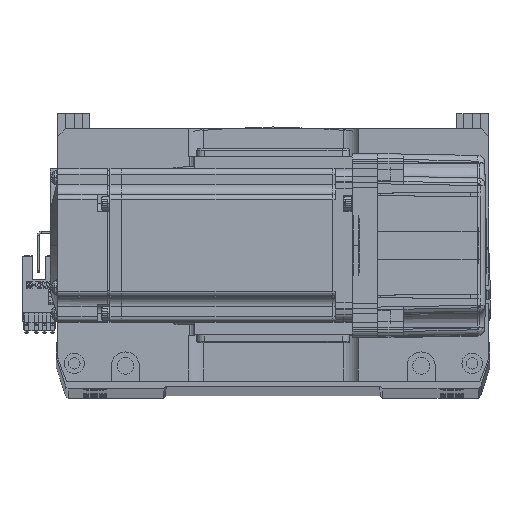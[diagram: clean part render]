
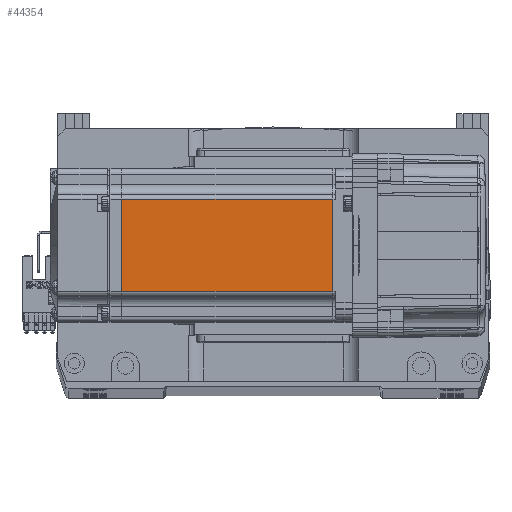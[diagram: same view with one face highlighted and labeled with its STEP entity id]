
A CAD part, top view. The second image highlights one B-rep face of the part: STEP entity #44354.
In plain terms, the highlighted planar face has unit normal (0, 0, 1).
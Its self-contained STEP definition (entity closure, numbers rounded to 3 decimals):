
#1158 = LINE ( 'NONE', #27035, #18354 ) ;
#4590 = VERTEX_POINT ( 'NONE', #31233 ) ;
#4686 = LINE ( 'NONE', #22176, #47990 ) ;
#8182 = DIRECTION ( 'NONE',  ( 0., -1., 0. ) ) ;
#10778 = AXIS2_PLACEMENT_3D ( 'NONE', #65681, #40045, #17214 ) ;
#13317 = VERTEX_POINT ( 'NONE', #19257 ) ;
#15900 = VERTEX_POINT ( 'NONE', #41124 ) ;
#16340 = DIRECTION ( 'NONE',  ( 0., -1., 0. ) ) ;
#17214 = DIRECTION ( 'NONE',  ( 1., 0., 0. ) ) ;
#18354 = VECTOR ( 'NONE', #16340, 1000. ) ;
#18984 = CARTESIAN_POINT ( 'NONE',  ( -6.5, 18., 30. ) ) ;
#19257 = CARTESIAN_POINT ( 'NONE',  ( -90.45, -18., 30. ) ) ;
#22176 = CARTESIAN_POINT ( 'NONE',  ( -6.5, -18., 30. ) ) ;
#25789 = EDGE_CURVE ( 'NONE', #50195, #15900, #47118, .T. ) ;
#27035 = CARTESIAN_POINT ( 'NONE',  ( -90.45, 0., 30. ) ) ;
#27046 = CARTESIAN_POINT ( 'NONE',  ( -7.75, 18., 30. ) ) ;
#29925 = VECTOR ( 'NONE', #8182, 1000. ) ;
#31233 = CARTESIAN_POINT ( 'NONE',  ( -90.45, 18., 30. ) ) ;
#39786 = FACE_OUTER_BOUND ( 'NONE', #54326, .T. ) ;
#40045 = DIRECTION ( 'NONE',  ( 0., 0., 1. ) ) ;
#40450 = DIRECTION ( 'NONE',  ( -1., 0., 0. ) ) ;
#40553 = LINE ( 'NONE', #18984, #64306 ) ;
#41124 = CARTESIAN_POINT ( 'NONE',  ( -7.75, -18., 30. ) ) ;
#44354 = ADVANCED_FACE ( 'NONE', ( #39786 ), #63843, .T. ) ;
#44585 = CARTESIAN_POINT ( 'NONE',  ( -7.75, 0., 30. ) ) ;
#46326 = EDGE_CURVE ( 'NONE', #4590, #13317, #1158, .T. ) ;
#47118 = LINE ( 'NONE', #44585, #29925 ) ;
#47396 = ORIENTED_EDGE ( 'NONE', *, *, #46326, .T. ) ;
#47923 = EDGE_CURVE ( 'NONE', #50195, #4590, #40553, .T. ) ;
#47990 = VECTOR ( 'NONE', #53749, 1000. ) ;
#49004 = ORIENTED_EDGE ( 'NONE', *, *, #25789, .F. ) ;
#50195 = VERTEX_POINT ( 'NONE', #27046 ) ;
#53051 = EDGE_CURVE ( 'NONE', #15900, #13317, #4686, .T. ) ;
#53749 = DIRECTION ( 'NONE',  ( -1., 0., 0. ) ) ;
#54326 = EDGE_LOOP ( 'NONE', ( #49004, #59051, #47396, #55939 ) ) ;
#55939 = ORIENTED_EDGE ( 'NONE', *, *, #53051, .F. ) ;
#59051 = ORIENTED_EDGE ( 'NONE', *, *, #47923, .T. ) ;
#63843 = PLANE ( 'NONE',  #10778 ) ;
#64306 = VECTOR ( 'NONE', #40450, 1000. ) ;
#65681 = CARTESIAN_POINT ( 'NONE',  ( -6.5, -25., 30. ) ) ;
